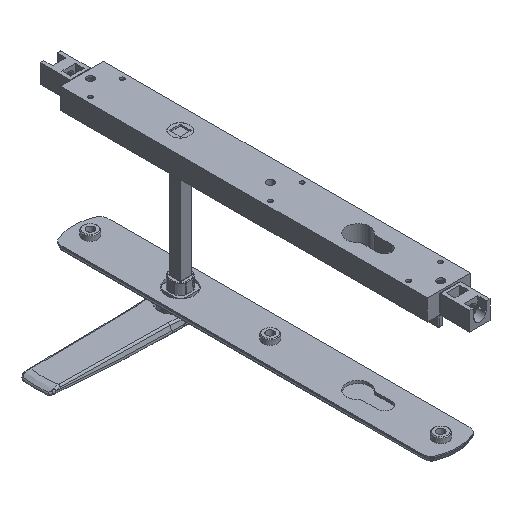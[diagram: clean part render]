
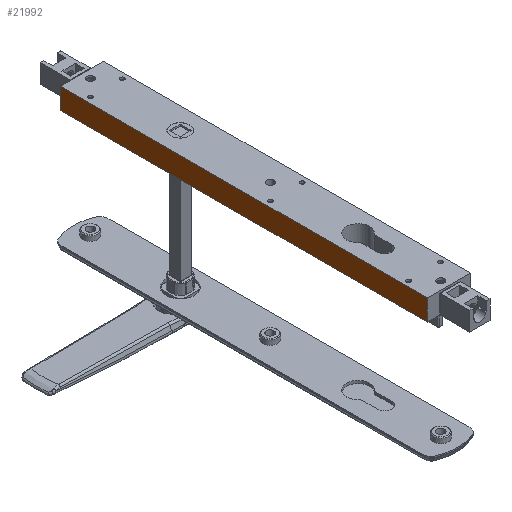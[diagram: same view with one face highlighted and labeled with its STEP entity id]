
A CAD part, isometric view. The second image highlights one B-rep face of the part: STEP entity #21992.
In plain terms, the highlighted planar face has unit normal (-1, 0, 0).
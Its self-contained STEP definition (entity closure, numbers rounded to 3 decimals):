
#632 = LINE ( 'NONE', #4557, #6877 ) ;
#1111 = LINE ( 'NONE', #10027, #18825 ) ;
#1546 = DIRECTION ( 'NONE',  ( 0., -1., 0. ) ) ;
#1730 = ORIENTED_EDGE ( 'NONE', *, *, #23013, .T. ) ;
#1856 = VECTOR ( 'NONE', #26915, 1000. ) ;
#2750 = AXIS2_PLACEMENT_3D ( 'NONE', #6357, #13079, #17634 ) ;
#3925 = EDGE_CURVE ( 'NONE', #23680, #20261, #632, .T. ) ;
#4557 = CARTESIAN_POINT ( 'NONE',  ( -16., 72.75, 7.75 ) ) ;
#6357 = CARTESIAN_POINT ( 'NONE',  ( -16., 72.75, 7.75 ) ) ;
#6877 = VECTOR ( 'NONE', #13482, 1000. ) ;
#7177 = ORIENTED_EDGE ( 'NONE', *, *, #8238, .F. ) ;
#8238 = EDGE_CURVE ( 'NONE', #21886, #20124, #16444, .T. ) ;
#9799 = EDGE_CURVE ( 'NONE', #23680, #21886, #24882, .T. ) ;
#10027 = CARTESIAN_POINT ( 'NONE',  ( -16., 72.75, -7.75 ) ) ;
#10886 = FACE_OUTER_BOUND ( 'NONE', #19280, .T. ) ;
#11174 = PLANE ( 'NONE',  #2750 ) ;
#13079 = DIRECTION ( 'NONE',  ( 1., 0., 0. ) ) ;
#13482 = DIRECTION ( 'NONE',  ( 0., 0., -1. ) ) ;
#14968 = ORIENTED_EDGE ( 'NONE', *, *, #9799, .F. ) ;
#15940 = CARTESIAN_POINT ( 'NONE',  ( -16., 72.75, 7.75 ) ) ;
#16361 = ORIENTED_EDGE ( 'NONE', *, *, #3925, .T. ) ;
#16444 = LINE ( 'NONE', #20830, #27542 ) ;
#17634 = DIRECTION ( 'NONE',  ( 0., 1., 0. ) ) ;
#17863 = CARTESIAN_POINT ( 'NONE',  ( -16., 72.75, 7.75 ) ) ;
#18825 = VECTOR ( 'NONE', #1546, 1000. ) ;
#18933 = DIRECTION ( 'NONE',  ( 0., 0., -1. ) ) ;
#19280 = EDGE_LOOP ( 'NONE', ( #1730, #7177, #14968, #16361 ) ) ;
#20124 = VERTEX_POINT ( 'NONE', #20727 ) ;
#20261 = VERTEX_POINT ( 'NONE', #25265 ) ;
#20727 = CARTESIAN_POINT ( 'NONE',  ( -16., -199.25, -7.75 ) ) ;
#20830 = CARTESIAN_POINT ( 'NONE',  ( -16., -199.25, 7.75 ) ) ;
#21886 = VERTEX_POINT ( 'NONE', #23795 ) ;
#21992 = ADVANCED_FACE ( 'NONE', ( #10886 ), #11174, .F. ) ;
#23013 = EDGE_CURVE ( 'NONE', #20261, #20124, #1111, .T. ) ;
#23680 = VERTEX_POINT ( 'NONE', #15940 ) ;
#23795 = CARTESIAN_POINT ( 'NONE',  ( -16., -199.25, 7.75 ) ) ;
#24882 = LINE ( 'NONE', #17863, #1856 ) ;
#25265 = CARTESIAN_POINT ( 'NONE',  ( -16., 72.75, -7.75 ) ) ;
#26915 = DIRECTION ( 'NONE',  ( 0., -1., 0. ) ) ;
#27542 = VECTOR ( 'NONE', #18933, 1000. ) ;
